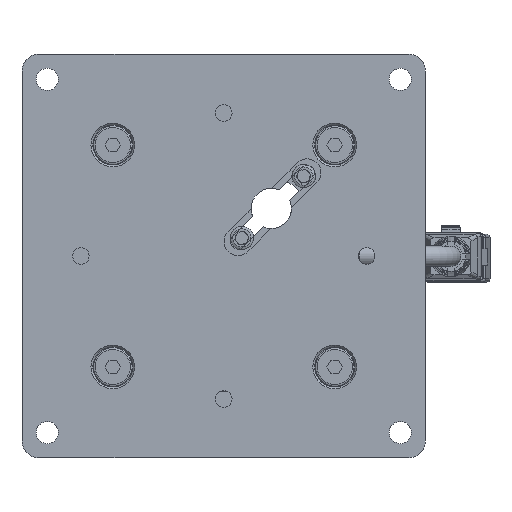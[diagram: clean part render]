
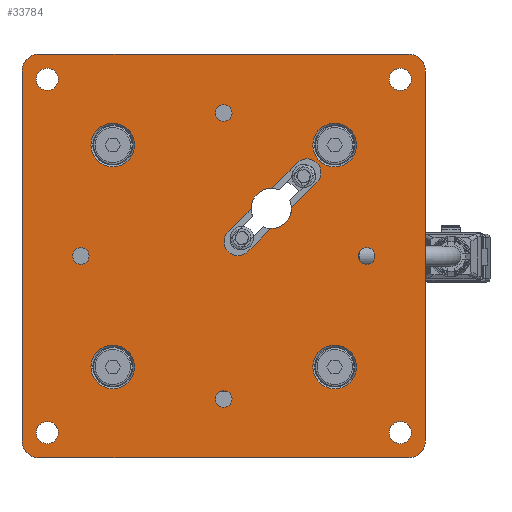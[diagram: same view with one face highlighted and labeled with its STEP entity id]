
A CAD part, top view. The second image highlights one B-rep face of the part: STEP entity #33784.
In plain terms, the highlighted planar face has unit normal (0, 0, 1).
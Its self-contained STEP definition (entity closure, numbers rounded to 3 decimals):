
#823=CIRCLE('',#35526,6.);
#849=CIRCLE('',#35556,2.459);
#850=CIRCLE('',#35557,2.459);
#851=CIRCLE('',#35558,2.459);
#852=CIRCLE('',#35559,2.459);
#853=CIRCLE('',#35560,6.5);
#854=CIRCLE('',#35561,6.5);
#855=CIRCLE('',#35562,6.5);
#856=CIRCLE('',#35563,6.5);
#857=CIRCLE('',#35564,3.3);
#858=CIRCLE('',#35565,3.3);
#859=CIRCLE('',#35566,3.3);
#860=CIRCLE('',#35567,3.3);
#861=CIRCLE('',#35568,5.);
#862=CIRCLE('',#35569,5.);
#863=CIRCLE('',#35570,5.);
#864=CIRCLE('',#35571,5.);
#865=CIRCLE('',#35572,6.);
#866=CIRCLE('',#35573,4.15);
#867=CIRCLE('',#35574,4.15);
#3780=ORIENTED_EDGE('',*,*,#10480,.F.);
#3781=ORIENTED_EDGE('',*,*,#10481,.F.);
#3782=ORIENTED_EDGE('',*,*,#10482,.F.);
#3783=ORIENTED_EDGE('',*,*,#10483,.F.);
#3784=ORIENTED_EDGE('',*,*,#10484,.T.);
#3785=ORIENTED_EDGE('',*,*,#10485,.T.);
#3786=ORIENTED_EDGE('',*,*,#10486,.T.);
#3787=ORIENTED_EDGE('',*,*,#10487,.T.);
#3788=ORIENTED_EDGE('',*,*,#10488,.F.);
#3789=ORIENTED_EDGE('',*,*,#10489,.F.);
#3790=ORIENTED_EDGE('',*,*,#10490,.F.);
#3791=ORIENTED_EDGE('',*,*,#10491,.F.);
#3792=ORIENTED_EDGE('',*,*,#10492,.T.);
#3793=ORIENTED_EDGE('',*,*,#10493,.T.);
#3794=ORIENTED_EDGE('',*,*,#10494,.T.);
#3795=ORIENTED_EDGE('',*,*,#10495,.T.);
#3796=ORIENTED_EDGE('',*,*,#10496,.T.);
#3797=ORIENTED_EDGE('',*,*,#10497,.T.);
#3798=ORIENTED_EDGE('',*,*,#10498,.T.);
#3799=ORIENTED_EDGE('',*,*,#10499,.T.);
#3800=ORIENTED_EDGE('',*,*,#10500,.F.);
#3801=ORIENTED_EDGE('',*,*,#10501,.F.);
#3802=ORIENTED_EDGE('',*,*,#10502,.F.);
#3803=ORIENTED_EDGE('',*,*,#10503,.T.);
#3804=ORIENTED_EDGE('',*,*,#10504,.T.);
#3805=ORIENTED_EDGE('',*,*,#10437,.F.);
#3806=ORIENTED_EDGE('',*,*,#10505,.T.);
#3807=ORIENTED_EDGE('',*,*,#10506,.T.);
#10437=EDGE_CURVE('',#13937,#13938,#823,.T.);
#10480=EDGE_CURVE('',#13977,#13977,#849,.T.);
#10481=EDGE_CURVE('',#13978,#13978,#850,.T.);
#10482=EDGE_CURVE('',#13979,#13979,#851,.T.);
#10483=EDGE_CURVE('',#13980,#13980,#852,.T.);
#10484=EDGE_CURVE('',#13981,#13981,#853,.T.);
#10485=EDGE_CURVE('',#13982,#13982,#854,.T.);
#10486=EDGE_CURVE('',#13983,#13983,#855,.T.);
#10487=EDGE_CURVE('',#13984,#13984,#856,.T.);
#10488=EDGE_CURVE('',#13985,#13985,#857,.T.);
#10489=EDGE_CURVE('',#13986,#13986,#858,.T.);
#10490=EDGE_CURVE('',#13987,#13987,#859,.T.);
#10491=EDGE_CURVE('',#13988,#13988,#860,.T.);
#10492=EDGE_CURVE('',#13989,#13990,#861,.T.);
#10493=EDGE_CURVE('',#13990,#13991,#16520,.T.);
#10494=EDGE_CURVE('',#13991,#13992,#862,.T.);
#10495=EDGE_CURVE('',#13992,#13993,#16521,.T.);
#10496=EDGE_CURVE('',#13993,#13994,#863,.T.);
#10497=EDGE_CURVE('',#13994,#13995,#16522,.T.);
#10498=EDGE_CURVE('',#13995,#13996,#864,.T.);
#10499=EDGE_CURVE('',#13996,#13989,#16523,.T.);
#10500=EDGE_CURVE('',#13997,#13998,#16524,.T.);
#10501=EDGE_CURVE('',#13999,#13997,#865,.T.);
#10502=EDGE_CURVE('',#14000,#13999,#16525,.T.);
#10503=EDGE_CURVE('',#14000,#14001,#866,.T.);
#10504=EDGE_CURVE('',#14001,#13938,#16526,.T.);
#10505=EDGE_CURVE('',#13937,#14002,#16527,.T.);
#10506=EDGE_CURVE('',#14002,#13998,#867,.T.);
#13937=VERTEX_POINT('',#46719);
#13938=VERTEX_POINT('',#46721);
#13977=VERTEX_POINT('',#46807);
#13978=VERTEX_POINT('',#46809);
#13979=VERTEX_POINT('',#46811);
#13980=VERTEX_POINT('',#46813);
#13981=VERTEX_POINT('',#46815);
#13982=VERTEX_POINT('',#46817);
#13983=VERTEX_POINT('',#46819);
#13984=VERTEX_POINT('',#46821);
#13985=VERTEX_POINT('',#46823);
#13986=VERTEX_POINT('',#46825);
#13987=VERTEX_POINT('',#46827);
#13988=VERTEX_POINT('',#46829);
#13989=VERTEX_POINT('',#46831);
#13990=VERTEX_POINT('',#46832);
#13991=VERTEX_POINT('',#46834);
#13992=VERTEX_POINT('',#46836);
#13993=VERTEX_POINT('',#46838);
#13994=VERTEX_POINT('',#46840);
#13995=VERTEX_POINT('',#46842);
#13996=VERTEX_POINT('',#46844);
#13997=VERTEX_POINT('',#46847);
#13998=VERTEX_POINT('',#46848);
#13999=VERTEX_POINT('',#46850);
#14000=VERTEX_POINT('',#46852);
#14001=VERTEX_POINT('',#46854);
#14002=VERTEX_POINT('',#46857);
#16520=LINE('',#46833,#18909);
#16521=LINE('',#46837,#18910);
#16522=LINE('',#46841,#18911);
#16523=LINE('',#46845,#18912);
#16524=LINE('',#46846,#18913);
#16525=LINE('',#46851,#18914);
#16526=LINE('',#46855,#18915);
#16527=LINE('',#46856,#18916);
#18909=VECTOR('',#39308,1000.);
#18910=VECTOR('',#39311,1000.);
#18911=VECTOR('',#39314,1000.);
#18912=VECTOR('',#39317,1000.);
#18913=VECTOR('',#39318,1000.);
#18914=VECTOR('',#39321,1000.);
#18915=VECTOR('',#39324,1000.);
#18916=VECTOR('',#39325,1000.);
#21065=EDGE_LOOP('',(#3780));
#21066=EDGE_LOOP('',(#3781));
#21067=EDGE_LOOP('',(#3782));
#21068=EDGE_LOOP('',(#3783));
#21069=EDGE_LOOP('',(#3784));
#21070=EDGE_LOOP('',(#3785));
#21071=EDGE_LOOP('',(#3786));
#21072=EDGE_LOOP('',(#3787));
#21073=EDGE_LOOP('',(#3788));
#21074=EDGE_LOOP('',(#3789));
#21075=EDGE_LOOP('',(#3790));
#21076=EDGE_LOOP('',(#3791));
#21077=EDGE_LOOP('',(#3792,#3793,#3794,#3795,#3796,#3797,#3798,#3799));
#21078=EDGE_LOOP('',(#3800,#3801,#3802,#3803,#3804,#3805,#3806,#3807));
#22818=FACE_BOUND('',#21065,.T.);
#22819=FACE_BOUND('',#21066,.T.);
#22820=FACE_BOUND('',#21067,.T.);
#22821=FACE_BOUND('',#21068,.T.);
#22822=FACE_BOUND('',#21069,.T.);
#22823=FACE_BOUND('',#21070,.T.);
#22824=FACE_BOUND('',#21071,.T.);
#22825=FACE_BOUND('',#21072,.T.);
#22826=FACE_BOUND('',#21073,.T.);
#22827=FACE_BOUND('',#21074,.T.);
#22828=FACE_BOUND('',#21075,.T.);
#22829=FACE_BOUND('',#21076,.T.);
#22830=FACE_BOUND('',#21077,.T.);
#22831=FACE_BOUND('',#21078,.T.);
#24373=PLANE('',#35555);
#33784=ADVANCED_FACE('',(#22818,#22819,#22820,#22821,#22822,#22823,#22824,
#22825,#22826,#22827,#22828,#22829,#22830,#22831),#24373,.T.);
#35526=AXIS2_PLACEMENT_3D('',#46720,#39205,#39206);
#35555=AXIS2_PLACEMENT_3D('',#46805,#39280,#39281);
#35556=AXIS2_PLACEMENT_3D('',#46806,#39282,#39283);
#35557=AXIS2_PLACEMENT_3D('',#46808,#39284,#39285);
#35558=AXIS2_PLACEMENT_3D('',#46810,#39286,#39287);
#35559=AXIS2_PLACEMENT_3D('',#46812,#39288,#39289);
#35560=AXIS2_PLACEMENT_3D('',#46814,#39290,#39291);
#35561=AXIS2_PLACEMENT_3D('',#46816,#39292,#39293);
#35562=AXIS2_PLACEMENT_3D('',#46818,#39294,#39295);
#35563=AXIS2_PLACEMENT_3D('',#46820,#39296,#39297);
#35564=AXIS2_PLACEMENT_3D('',#46822,#39298,#39299);
#35565=AXIS2_PLACEMENT_3D('',#46824,#39300,#39301);
#35566=AXIS2_PLACEMENT_3D('',#46826,#39302,#39303);
#35567=AXIS2_PLACEMENT_3D('',#46828,#39304,#39305);
#35568=AXIS2_PLACEMENT_3D('',#46830,#39306,#39307);
#35569=AXIS2_PLACEMENT_3D('',#46835,#39309,#39310);
#35570=AXIS2_PLACEMENT_3D('',#46839,#39312,#39313);
#35571=AXIS2_PLACEMENT_3D('',#46843,#39315,#39316);
#35572=AXIS2_PLACEMENT_3D('',#46849,#39319,#39320);
#35573=AXIS2_PLACEMENT_3D('',#46853,#39322,#39323);
#35574=AXIS2_PLACEMENT_3D('',#46858,#39326,#39327);
#39205=DIRECTION('',(0.,0.,1.));
#39206=DIRECTION('',(1.,0.,0.));
#39280=DIRECTION('',(0.,0.,1.));
#39281=DIRECTION('',(1.,0.,0.));
#39282=DIRECTION('',(0.,0.,1.));
#39283=DIRECTION('',(0.,1.,0.));
#39284=DIRECTION('',(0.,0.,1.));
#39285=DIRECTION('',(0.,1.,0.));
#39286=DIRECTION('',(0.,0.,1.));
#39287=DIRECTION('',(0.,1.,0.));
#39288=DIRECTION('',(0.,0.,1.));
#39289=DIRECTION('',(0.,1.,0.));
#39290=DIRECTION('',(0.,0.,-1.));
#39291=DIRECTION('',(1.,0.,0.));
#39292=DIRECTION('',(0.,0.,-1.));
#39293=DIRECTION('',(1.,0.,0.));
#39294=DIRECTION('',(0.,0.,-1.));
#39295=DIRECTION('',(1.,0.,0.));
#39296=DIRECTION('',(0.,0.,-1.));
#39297=DIRECTION('',(1.,0.,0.));
#39298=DIRECTION('',(0.,0.,1.));
#39299=DIRECTION('',(1.,0.,0.));
#39300=DIRECTION('',(0.,0.,1.));
#39301=DIRECTION('',(1.,0.,0.));
#39302=DIRECTION('',(0.,0.,1.));
#39303=DIRECTION('',(1.,0.,0.));
#39304=DIRECTION('',(0.,0.,1.));
#39305=DIRECTION('',(1.,0.,0.));
#39306=DIRECTION('',(0.,0.,1.));
#39307=DIRECTION('',(1.,0.,0.));
#39308=DIRECTION('',(1.,0.,0.));
#39309=DIRECTION('',(0.,0.,1.));
#39310=DIRECTION('',(-1.,0.,0.));
#39311=DIRECTION('',(0.,1.,0.));
#39312=DIRECTION('',(0.,0.,1.));
#39313=DIRECTION('',(1.,0.,0.));
#39314=DIRECTION('',(-1.,0.,0.));
#39315=DIRECTION('',(0.,0.,1.));
#39316=DIRECTION('',(1.,0.,0.));
#39317=DIRECTION('',(0.,-1.,0.));
#39318=DIRECTION('',(0.707,0.707,0.));
#39319=DIRECTION('',(0.,0.,1.));
#39320=DIRECTION('',(-1.,0.,0.));
#39321=DIRECTION('',(0.707,0.707,0.));
#39322=DIRECTION('',(0.,0.,-1.));
#39323=DIRECTION('',(0.707,-0.707,0.));
#39324=DIRECTION('',(0.707,0.707,0.));
#39325=DIRECTION('',(0.707,0.707,0.));
#39326=DIRECTION('',(0.,0.,-1.));
#39327=DIRECTION('',(-0.707,0.707,0.));
#46719=CARTESIAN_POINT('',(14.272,20.141,8.));
#46720=CARTESIAN_POINT('',(14.142,14.142,8.));
#46721=CARTESIAN_POINT('',(8.144,14.013,8.));
#46805=CARTESIAN_POINT('',(-55.,-55.,8.));
#46806=CARTESIAN_POINT('',(42.5,0.,8.));
#46807=CARTESIAN_POINT('',(42.5,2.459,8.));
#46808=CARTESIAN_POINT('',(0.,42.5,8.));
#46809=CARTESIAN_POINT('',(0.,44.959,8.));
#46810=CARTESIAN_POINT('',(-42.5,0.,8.));
#46811=CARTESIAN_POINT('',(-42.5,2.458,8.));
#46812=CARTESIAN_POINT('',(0.,-42.5,8.));
#46813=CARTESIAN_POINT('',(0.,-40.042,8.));
#46814=CARTESIAN_POINT('',(-33.,-33.,8.));
#46815=CARTESIAN_POINT('',(-26.5,-33.,8.));
#46816=CARTESIAN_POINT('',(33.,-33.,8.));
#46817=CARTESIAN_POINT('',(39.5,-33.,8.));
#46818=CARTESIAN_POINT('',(33.,33.,8.));
#46819=CARTESIAN_POINT('',(39.5,33.,8.));
#46820=CARTESIAN_POINT('',(-33.,33.,8.));
#46821=CARTESIAN_POINT('',(-26.5,33.,8.));
#46822=CARTESIAN_POINT('',(-52.5,-52.5,8.));
#46823=CARTESIAN_POINT('',(-49.2,-52.5,8.));
#46824=CARTESIAN_POINT('',(52.5,-52.5,8.));
#46825=CARTESIAN_POINT('',(55.8,-52.5,8.));
#46826=CARTESIAN_POINT('',(52.5,52.5,8.));
#46827=CARTESIAN_POINT('',(55.8,52.5,8.));
#46828=CARTESIAN_POINT('',(-52.5,52.5,8.));
#46829=CARTESIAN_POINT('',(-49.2,52.5,8.));
#46830=CARTESIAN_POINT('',(-55.,-55.,8.));
#46831=CARTESIAN_POINT('',(-60.,-55.,8.));
#46832=CARTESIAN_POINT('',(-55.,-60.,8.));
#46833=CARTESIAN_POINT('',(-55.,-60.,8.));
#46834=CARTESIAN_POINT('',(55.,-60.,8.));
#46835=CARTESIAN_POINT('',(55.,-55.,8.));
#46836=CARTESIAN_POINT('',(60.,-55.,8.));
#46837=CARTESIAN_POINT('',(60.,-55.,8.));
#46838=CARTESIAN_POINT('',(60.,55.,8.));
#46839=CARTESIAN_POINT('',(55.,55.,8.));
#46840=CARTESIAN_POINT('',(55.,60.,8.));
#46841=CARTESIAN_POINT('',(55.,60.,8.));
#46842=CARTESIAN_POINT('',(-55.,60.,8.));
#46843=CARTESIAN_POINT('',(-55.,55.,8.));
#46844=CARTESIAN_POINT('',(-60.,55.,8.));
#46845=CARTESIAN_POINT('',(-60.,55.,8.));
#46846=CARTESIAN_POINT('',(7.177,1.308,8.));
#46847=CARTESIAN_POINT('',(20.141,14.272,8.));
#46848=CARTESIAN_POINT('',(27.683,21.814,8.));
#46849=CARTESIAN_POINT('',(14.142,14.142,8.));
#46850=CARTESIAN_POINT('',(14.013,8.144,8.));
#46851=CARTESIAN_POINT('',(7.177,1.308,8.));
#46852=CARTESIAN_POINT('',(7.177,1.308,8.));
#46853=CARTESIAN_POINT('',(4.243,4.243,8.));
#46854=CARTESIAN_POINT('',(1.308,7.177,8.));
#46855=CARTESIAN_POINT('',(1.308,7.177,8.));
#46856=CARTESIAN_POINT('',(1.308,7.177,8.));
#46857=CARTESIAN_POINT('',(21.814,27.683,8.));
#46858=CARTESIAN_POINT('',(24.749,24.749,8.));
